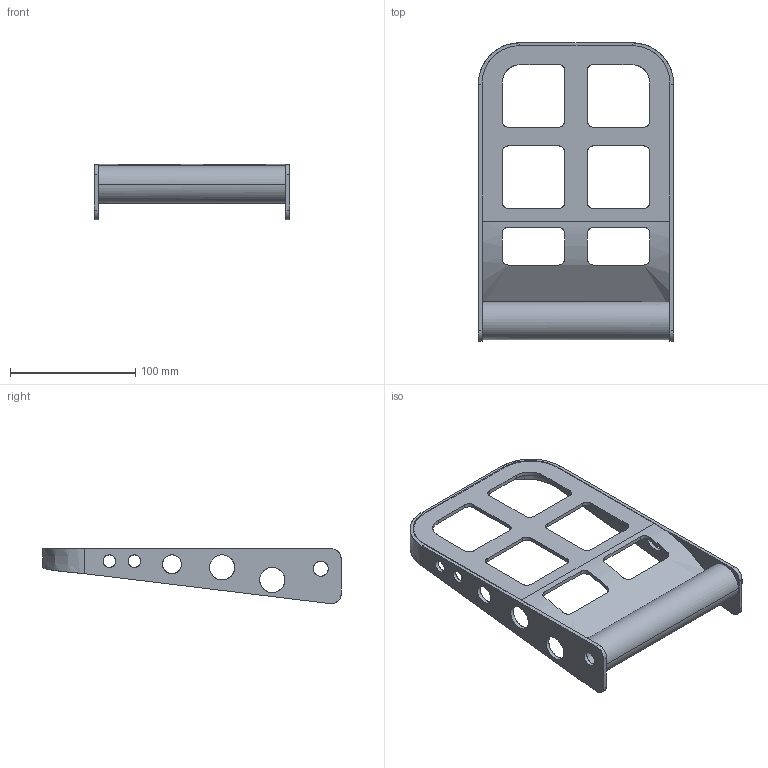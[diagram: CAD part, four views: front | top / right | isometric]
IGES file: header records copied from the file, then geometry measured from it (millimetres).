
Start section: C
Global section: file name: Pedal_v1_0.igs; native system: By Siemens PLM Incorporated; preprocessor: XPlus GENERIC/IGES 18.0.17; author: Author; organization: Title; date: 20150807.150704; units: millimetre
Bounding box: 156 x 238 x 44.29 mm (x, y, z)
Surface area: 98368.5 mm2 (no closed solid volume)
Topology: 0 solids, 0 shells, 107 faces, 626 edges, 626 vertices
Faces by surface type: bspline 107
